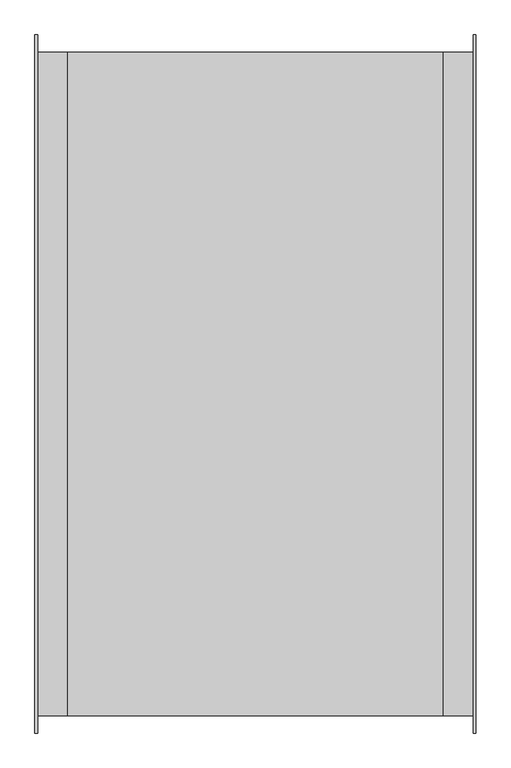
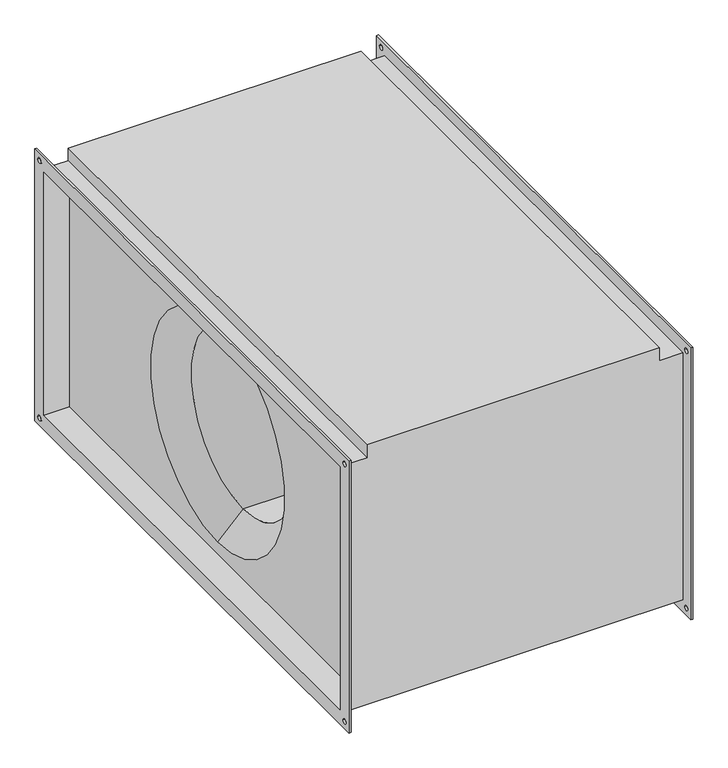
"""IFC4 building model written with IfcOpenShell, lengths in millimetres: proxy geometry, СВ_Вентилятор_КанальныйПрямоугольный_200-1000_SVPS : SVPS-1000x500/45.4D."""

import ifcopenshell
import ifcopenshell.guid

model = None  # the IFC model being written
_history = None  # IfcOwnerHistory: only IFC2X3 demands one
_inside = {}  # id of a spatial element -> (the spatial element, [elements in it])
_under = {}  # id of a project, library or spatial element -> (it, [spatial elements below it])
_declared = {}  # id of a project -> (the project, [libraries it declares])
_typed = {}  # id of a type object -> (the type object, [elements of that type])
_made_of = {}  # id of a material, layer set ... -> (it, [elements and type objects made of it])


def new_model(schema):
    """Start an empty IFC model of exactly this schema.

    Asked for "IFC4X3", IfcOpenShell would pick the latest addendum, in which some entities
    have other attributes; the version numbers below select the first issue.
    IFC2X3 requires an IfcOwnerHistory on every rooted entity: one is made here for all.
    """
    global model, _history
    if schema == "IFC4X3":
        model = ifcopenshell.file(schema_version=(4, 3, 0, 0))
    else:
        model = ifcopenshell.file(schema=schema)
    _inside.clear()
    _under.clear()
    _declared.clear()
    _typed.clear()
    _made_of.clear()
    _history = None
    if model.schema == "IFC2X3":
        org = make("IfcOrganization", Name="unknown")
        user = make(
            "IfcPersonAndOrganization",
            ThePerson=make("IfcPerson", FamilyName="unknown"),
            TheOrganization=org,
        )
        app = make(
            "IfcApplication",
            ApplicationDeveloper=org,
            Version="unknown",
            ApplicationFullName="unknown",
            ApplicationIdentifier="unknown",
        )
        _history = make(
            "IfcOwnerHistory",
            OwningUser=user,
            OwningApplication=app,
            ChangeAction="ADDED",
            CreationDate=0,
        )
    return model


def make(cls, **values):
    """One entity of the class cls with the attributes given. An attribute that is None is left unset."""
    return model.create_entity(
        cls, **{name: value for name, value in values.items() if value is not None}
    )


def rooted(cls, **values):
    """An entity with a GlobalId (a new one), such as an element, a storey or a relation."""
    return make(cls, GlobalId=ifcopenshell.guid.new(), OwnerHistory=_history, **values)


def si_unit(unit_type, name, prefix=None):
    """IfcSIUnit, for example si_unit("LENGTHUNIT", "METRE", prefix="MILLI")."""
    return make("IfcSIUnit", UnitType=unit_type, Prefix=prefix, Name=name)


def assignment(units):
    """IfcUnitAssignment: the units of a project."""
    return None if units is None else make("IfcUnitAssignment", Units=units)


def point(xyz):
    """IfcCartesianPoint."""
    return None if xyz is None else make("IfcCartesianPoint", Coordinates=xyz)


def direction(xyz):
    """IfcDirection."""
    return None if xyz is None else make("IfcDirection", DirectionRatios=xyz)


def frame(location, z_axis=None, x_axis=None):
    """IfcAxis2Placement3D, a coordinate frame: its origin and axes. An axis left out is left unset."""
    return make(
        "IfcAxis2Placement3D",
        Location=point(location),
        Axis=direction(z_axis),
        RefDirection=direction(x_axis),
    )


def origin():
    """The frame at (0, 0, 0) with its axes left unset."""
    return frame((0.0, 0.0, 0.0))


def place(relative_to, where):
    """IfcLocalPlacement: puts the frame where relative to a parent placement (None: the world)."""
    return make(
        "IfcLocalPlacement", PlacementRelTo=relative_to, RelativePlacement=where
    )


def context(
    kind, dimensions, precision=None, world=None, true_north=None, identifier=None
):
    """IfcGeometricRepresentationContext, for example the 3D "Model" context."""
    return make(
        "IfcGeometricRepresentationContext",
        ContextIdentifier=identifier,
        ContextType=kind,
        CoordinateSpaceDimension=dimensions,
        Precision=precision,
        WorldCoordinateSystem=world,
        TrueNorth=true_north,
    )


def project(units=None, contexts=None):
    """IfcProject with its units and contexts."""
    return rooted(
        "IfcProject",
        Name="project",
        RepresentationContexts=contexts,
        UnitsInContext=assignment(units),
    )


def spatial(cls, under=None, at=None, **own):
    """A site, building, storey or space (cls), placed at a placement, below another one or the project."""
    s = rooted(cls, ObjectPlacement=at, **own)
    if under is not None:
        _under.setdefault(under.id(), (under, []))[1].append(s)
    return s


def polyline(points):
    """IfcPolyline through the points."""
    return make("IfcPolyline", Points=[point(p) for p in points])


def circle_curve(where, radius):
    """IfcCircle in the frame where."""
    return make("IfcCircle", Position=where, Radius=radius)


def shape(context_of_items, identifier, shape_type, items):
    """IfcShapeRepresentation: the items that make up one representation, for example the "Body"."""
    return make(
        "IfcShapeRepresentation",
        ContextOfItems=context_of_items,
        RepresentationIdentifier=identifier,
        RepresentationType=shape_type,
        Items=items,
    )


def source(mapping_origin, context_of_items, identifier, shape_type, items):
    """IfcRepresentationMap: a shape defined once, which mapped items show again and again."""
    return make(
        "IfcRepresentationMap",
        MappingOrigin=mapping_origin,
        MappedRepresentation=shape(context_of_items, identifier, shape_type, items),
    )


def transform(
    local_origin,
    x_axis=None,
    y_axis=None,
    z_axis=None,
    scale=None,
    scale2=None,
    scale3=None,
    uniform=True,
):
    """IfcCartesianTransformationOperator3D, or its non-uniform kind. x_axis, y_axis, z_axis: its Axis1, 2, 3."""
    if uniform:
        return make(
            "IfcCartesianTransformationOperator3D",
            Axis1=direction(x_axis),
            Axis2=direction(y_axis),
            LocalOrigin=point(local_origin),
            Scale=scale,
            Axis3=direction(z_axis),
        )
    return make(
        "IfcCartesianTransformationOperator3DnonUniform",
        Axis1=direction(x_axis),
        Axis2=direction(y_axis),
        LocalOrigin=point(local_origin),
        Scale=scale,
        Axis3=direction(z_axis),
        Scale2=scale2,
        Scale3=scale3,
    )


def mapped(mapping_source, mapping_target):
    """IfcMappedItem: shows the shape of a source again, moved by a transform."""
    return make(
        "IfcMappedItem", MappingSource=mapping_source, MappingTarget=mapping_target
    )


def made_of(thing, what):
    """Note that an element or type object is made of a material, layer set ...; save() writes the relation."""
    if what is not None:
        _made_of.setdefault(what.id(), (what, []))[1].append(thing)
    return thing


def element(
    cls,
    number,
    at=None,
    inside=None,
    cuts=None,
    type_object=None,
    material=None,
    context=None,
    identifier="Body",
    shape_type=None,
    held_by="IfcProductDefinitionShape",
    body=None,
    shapes=None,
    **own,
):
    """One element of the class cls, such as IfcWall. Its Tag is "e" and its number.

    at: its placement. inside: the storey or other place that contains it. cuts: it is an
    opening in that element (IfcRelVoidsElement). A single representation is given by context,
    identifier, shape_type and body (its items); several are given by shapes. held_by: the class
    of the entity that holds the representations. save() writes the other relations.
    """
    e = rooted(cls, Tag="e%d" % number, ObjectPlacement=at, **own)
    if body is not None:
        shapes = [shape(context, identifier, shape_type, body)]
    if shapes is not None:
        e.Representation = make(held_by, Representations=shapes)
    if inside is not None:
        _inside.setdefault(inside.id(), (inside, []))[1].append(e)
    if cuts is not None:
        rooted(
            "IfcRelVoidsElement", RelatingBuildingElement=cuts, RelatedOpeningElement=e
        )
    if type_object is not None:
        _typed.setdefault(type_object.id(), (type_object, []))[1].append(e)
    return made_of(e, material)


def aggregate(whole, parts):
    """IfcRelAggregates: a whole, such as a stair, and the parts it consists of."""
    return rooted("IfcRelAggregates", RelatingObject=whole, RelatedObjects=parts)


def save(model, path):
    """Write the relations noted so far, then the file.

    IfcRelAggregates (storeys below a building ...), IfcRelContainedInSpatialStructure (elements
    in a storey), IfcRelDefinesByType, IfcRelAssociatesMaterial and IfcRelDeclares: one each for
    every whole, place, type object, material and project.
    """
    for whole, parts in _under.values():
        aggregate(whole, parts)
    for where, things in _inside.values():
        rooted(
            "IfcRelContainedInSpatialStructure",
            RelatedElements=things,
            RelatingStructure=where,
        )
    for kind, things in _typed.values():
        rooted("IfcRelDefinesByType", RelatedObjects=things, RelatingType=kind)
    for what, things in _made_of.values():
        rooted("IfcRelAssociatesMaterial", RelatedObjects=things, RelatingMaterial=what)
    for by, libraries in _declared.values():
        rooted("IfcRelDeclares", RelatingContext=by, RelatedDefinitions=libraries)
    model.write(path)


def plane_surface(at):
    """IfcPlane: the flat surface through the origin of the frame at, square to its z axis."""
    return make("IfcPlane", Position=at)


def revolved_surface(curve, axis_point, axis_direction):
    """IfcSurfaceOfRevolution: the curve turned about the line through axis_point along axis_direction."""
    return make(
        "IfcSurfaceOfRevolution",
        SweptCurve=make("IfcArbitraryOpenProfileDef", ProfileType="CURVE", Curve=curve),
        AxisPosition=make("IfcAxis1Placement", Location=point(axis_point), Axis=direction(axis_direction)),
    )


def advanced_brep(points, edges, surfaces, faces):
    """IfcAdvancedBrep: a solid bounded by faces that lie on surfaces and meet in shared edges.

    An edge is (start, end): straight between two places in points (the first is 0);
    or (start, end, curve); or (start, end, curve, False) where it runs against its curve.
    A face is (place in surfaces, loops), or (place, loops, False) where it looks against
    its surface's normal. A loop lists edges by number (the first is 1), with a minus sign
    where the edge is run from its end to its start. The first loop is the outer one.
    """
    corners = [point(p) for p in points]
    vertices = [make("IfcVertexPoint", VertexGeometry=c) for c in corners]
    made = []
    for start, end, *more in edges:
        made.append(
            make(
                "IfcEdgeCurve",
                EdgeStart=vertices[start],
                EdgeEnd=vertices[end],
                EdgeGeometry=more[0] if more else make("IfcPolyline", Points=[corners[start], corners[end]]),
                SameSense=more[1] if len(more) > 1 else True,
            )
        )
    hull = []
    for where, loops, *sense in faces:
        bounds = []
        for j, loop in enumerate(loops):
            ring = [make("IfcOrientedEdge", EdgeElement=made[abs(k) - 1], Orientation=k > 0) for k in loop]
            bounds.append(
                make(
                    "IfcFaceOuterBound" if j == 0 else "IfcFaceBound",
                    Bound=make("IfcEdgeLoop", EdgeList=ring),
                    Orientation=True,
                )
            )
        hull.append(make("IfcAdvancedFace", Bounds=bounds, FaceSurface=surfaces[where], SameSense=sense[0] if sense else True))
    return make("IfcAdvancedBrep", Outer=make("IfcClosedShell", CfsFaces=hull))


def mechanical_equipment_67b06a08(model_context):
    return source(origin(), model_context, "Body", "AdvancedBrep", [
        advanced_brep(
        [(-331.0, -504.0, 254.0), (-285.0, -504.0, 254.0), (-285.0, 504.0, 254.0), (-331.0, 504.0, 254.0), (285.0, 504.0, 280.0), (285.0, -504.0, 280.0), (285.0, -504.0, 254.0), (285.0, 504.0, 254.0), (285.0, 500.0, -250.0), (285.0, 500.0, 250.0), (285.0, -500.0, 250.0), (285.0, -500.0, -250.0), (285.0, 0.0, 225.0), (285.0, 0.0, -225.0), (-285.0, 500.0, 250.0), (-285.0, 500.0, -250.0), (-285.0, -500.0, -250.0), (-285.0, -500.0, 250.0), (-285.0, 0.0, -225.0), (-285.0, 0.0, 225.0), (-285.0, -504.0, 280.0), (-285.0, 504.0, 280.0), (-331.0, -504.0, -254.0), (331.0, -504.0, -254.0), (331.0, -504.0, 254.0), (-331.0, 504.0, -254.0), (331.0, 504.0, -254.0), (331.0, 504.0, 254.0), (235.0, 0.0, -175.0), (235.0, 0.0, 175.0), (-235.0, 0.0, 175.0), (-235.0, 0.0, -175.0), (-335.0, -530.0, 280.0), (-335.0, 530.0, 280.0), (-335.0, 530.0, -280.0), (-335.0, -530.0, -280.0), (-335.0, -500.0, 250.0), (-335.0, -500.0, -250.0), (-335.0, 500.0, -250.0), (-335.0, 500.0, 250.0), (-335.0, 510.0, 265.0), (-335.0, 520.0, 265.0), (-335.0, -520.0, 265.0), (-335.0, -510.0, 265.0), (-335.0, -520.0, -265.0), (-335.0, -510.0, -265.0), (-335.0, 510.0, -265.0), (-335.0, 520.0, -265.0), (-331.0, -530.0, 280.0), (-331.0, -530.0, -280.0), (-331.0, 530.0, -280.0), (-331.0, 530.0, 280.0), (-331.0, 520.0, 265.0), (-331.0, 510.0, 265.0), (-331.0, -510.0, 265.0), (-331.0, -520.0, 265.0), (-331.0, -510.0, -265.0), (-331.0, -520.0, -265.0), (-331.0, 520.0, -265.0), (-331.0, 510.0, -265.0), (331.0, 530.0, 280.0), (331.0, 530.0, -280.0), (331.0, -530.0, -280.0), (331.0, -530.0, 280.0), (331.0, 510.0, 265.0), (331.0, 520.0, 265.0), (331.0, -520.0, 265.0), (331.0, -510.0, 265.0), (331.0, -520.0, -265.0), (331.0, -510.0, -265.0), (331.0, 510.0, -265.0), (331.0, 520.0, -265.0), (335.0, 530.0, 280.0), (335.0, -530.0, 280.0), (335.0, -530.0, -280.0), (335.0, 530.0, -280.0), (335.0, 500.0, 250.0), (335.0, 500.0, -250.0), (335.0, -500.0, -250.0), (335.0, -500.0, 250.0), (335.0, 520.0, 265.0), (335.0, 510.0, 265.0), (335.0, -510.0, 265.0), (335.0, -520.0, 265.0), (335.0, -510.0, -265.0), (335.0, -520.0, -265.0), (335.0, 520.0, -265.0), (335.0, 510.0, -265.0)],
        [
            (0, 1),
            (1, 2),
            (2, 3),
            (3, 0),
            (4, 5),
            (5, 6),
            (6, 7),
            (7, 4),
            (8, 9),
            (9, 10),
            (10, 11),
            (11, 8),
            (12, 13, circle_curve(frame((285.0, 0.0, 0.0), z_axis=(-1.0, 0.0, 0.0), x_axis=(0.0, 0.0, 1.0)), 225.0)),
            (13, 12, circle_curve(frame((285.0, 0.0, 0.0), z_axis=(-1.0, 0.0, 0.0), x_axis=(0.0, 0.0, 1.0)), 225.0)),
            (14, 15),
            (15, 16),
            (16, 17),
            (17, 14),
            (18, 19, circle_curve(frame((-285.0, 0.0, 0.0), z_axis=(1.0, 0.0, 0.0), x_axis=(0.0, 0.0, 1.0)), 225.0)),
            (19, 18, circle_curve(frame((-285.0, 0.0, 0.0), z_axis=(1.0, 0.0, 0.0), x_axis=(0.0, 0.0, 1.0)), 225.0)),
            (20, 21),
            (21, 2),
            (1, 20),
            (5, 20),
            (0, 22),
            (22, 23),
            (23, 24),
            (24, 6),
            (22, 25),
            (25, 26),
            (26, 23),
            (21, 4),
            (7, 27),
            (27, 26),
            (25, 3),
            (24, 27),
            (28, 13),
            (12, 29),
            (29, 28, circle_curve(frame((235.0, 0.0, 0.0), z_axis=(-1.0, 0.0, 0.0), x_axis=(0.0, 0.0, 1.0)), 175.0)),
            (28, 29, circle_curve(frame((235.0, 0.0, 0.0), z_axis=(-1.0, 0.0, 0.0), x_axis=(0.0, 0.0, 1.0)), 175.0)),
            (29, 30),
            (30, 31, circle_curve(frame((-235.0, 0.0, 0.0), z_axis=(-1.0, 0.0, 0.0), x_axis=(0.0, 0.0, 1.0)), 175.0)),
            (31, 28),
            (31, 30, circle_curve(frame((-235.0, 0.0, 0.0), z_axis=(-1.0, 0.0, 0.0), x_axis=(0.0, 0.0, 1.0)), 175.0)),
            (30, 19),
            (18, 31),
            (32, 33),
            (33, 34),
            (34, 35),
            (35, 32),
            (36, 37),
            (37, 38),
            (38, 39),
            (39, 36),
            (40, 41, circle_curve(frame((-335.0, 515.0, 265.0), z_axis=(1.0, 0.0, 0.0), x_axis=(0.0, 1.0, 0.0)), 5.0)),
            (41, 40, circle_curve(frame((-335.0, 515.0, 265.0), z_axis=(1.0, 0.0, 0.0), x_axis=(0.0, 1.0, 0.0)), 5.0)),
            (42, 43, circle_curve(frame((-335.0, -515.0, 265.0), z_axis=(1.0, 0.0, 0.0), x_axis=(0.0, 1.0, 0.0)), 5.0)),
            (43, 42, circle_curve(frame((-335.0, -515.0, 265.0), z_axis=(1.0, 0.0, 0.0), x_axis=(0.0, 1.0, 0.0)), 5.0)),
            (44, 45, circle_curve(frame((-335.0, -515.0, -265.0), z_axis=(1.0, 0.0, 0.0), x_axis=(0.0, 1.0, 0.0)), 5.0)),
            (45, 44, circle_curve(frame((-335.0, -515.0, -265.0), z_axis=(1.0, 0.0, 0.0), x_axis=(0.0, 1.0, 0.0)), 5.0)),
            (46, 47, circle_curve(frame((-335.0, 515.0, -265.0), z_axis=(1.0, 0.0, 0.0), x_axis=(0.0, 1.0, 0.0)), 5.0)),
            (47, 46, circle_curve(frame((-335.0, 515.0, -265.0), z_axis=(1.0, 0.0, 0.0), x_axis=(0.0, 1.0, 0.0)), 5.0)),
            (48, 49),
            (49, 50),
            (50, 51),
            (51, 48),
            (52, 53, circle_curve(frame((-331.0, 515.0, 265.0), z_axis=(-1.0, 0.0, 0.0), x_axis=(0.0, 1.0, 0.0)), 5.0)),
            (53, 52, circle_curve(frame((-331.0, 515.0, 265.0), z_axis=(-1.0, 0.0, 0.0), x_axis=(0.0, 1.0, 0.0)), 5.0)),
            (54, 55, circle_curve(frame((-331.0, -515.0, 265.0), z_axis=(-1.0, 0.0, 0.0), x_axis=(0.0, 1.0, 0.0)), 5.0)),
            (55, 54, circle_curve(frame((-331.0, -515.0, 265.0), z_axis=(-1.0, 0.0, 0.0), x_axis=(0.0, 1.0, 0.0)), 5.0)),
            (56, 57, circle_curve(frame((-331.0, -515.0, -265.0), z_axis=(-1.0, 0.0, 0.0), x_axis=(0.0, 1.0, 0.0)), 5.0)),
            (57, 56, circle_curve(frame((-331.0, -515.0, -265.0), z_axis=(-1.0, 0.0, 0.0), x_axis=(0.0, 1.0, 0.0)), 5.0)),
            (58, 59, circle_curve(frame((-331.0, 515.0, -265.0), z_axis=(-1.0, 0.0, 0.0), x_axis=(0.0, 1.0, 0.0)), 5.0)),
            (59, 58, circle_curve(frame((-331.0, 515.0, -265.0), z_axis=(-1.0, 0.0, 0.0), x_axis=(0.0, 1.0, 0.0)), 5.0)),
            (35, 49),
            (48, 32),
            (34, 50),
            (33, 51),
            (60, 61),
            (61, 62),
            (62, 63),
            (63, 60),
            (64, 65, circle_curve(frame((331.0, 515.0, 265.0), z_axis=(1.0, 0.0, 0.0), x_axis=(0.0, 1.0, 0.0)), 5.0)),
            (65, 64, circle_curve(frame((331.0, 515.0, 265.0), z_axis=(1.0, 0.0, 0.0), x_axis=(0.0, 1.0, 0.0)), 5.0)),
            (66, 67, circle_curve(frame((331.0, -515.0, 265.0), z_axis=(1.0, 0.0, 0.0), x_axis=(0.0, 1.0, 0.0)), 5.0)),
            (67, 66, circle_curve(frame((331.0, -515.0, 265.0), z_axis=(1.0, 0.0, 0.0), x_axis=(0.0, 1.0, 0.0)), 5.0)),
            (68, 69, circle_curve(frame((331.0, -515.0, -265.0), z_axis=(1.0, 0.0, 0.0), x_axis=(0.0, 1.0, 0.0)), 5.0)),
            (69, 68, circle_curve(frame((331.0, -515.0, -265.0), z_axis=(1.0, 0.0, 0.0), x_axis=(0.0, 1.0, 0.0)), 5.0)),
            (70, 71, circle_curve(frame((331.0, 515.0, -265.0), z_axis=(1.0, 0.0, 0.0), x_axis=(0.0, 1.0, 0.0)), 5.0)),
            (71, 70, circle_curve(frame((331.0, 515.0, -265.0), z_axis=(1.0, 0.0, 0.0), x_axis=(0.0, 1.0, 0.0)), 5.0)),
            (72, 73),
            (73, 74),
            (74, 75),
            (75, 72),
            (76, 77),
            (77, 78),
            (78, 79),
            (79, 76),
            (80, 81, circle_curve(frame((335.0, 515.0, 265.0), z_axis=(-1.0, 0.0, 0.0), x_axis=(0.0, 1.0, 0.0)), 5.0)),
            (81, 80, circle_curve(frame((335.0, 515.0, 265.0), z_axis=(-1.0, 0.0, 0.0), x_axis=(0.0, 1.0, 0.0)), 5.0)),
            (82, 83, circle_curve(frame((335.0, -515.0, 265.0), z_axis=(-1.0, 0.0, 0.0), x_axis=(0.0, 1.0, 0.0)), 5.0)),
            (83, 82, circle_curve(frame((335.0, -515.0, 265.0), z_axis=(-1.0, 0.0, 0.0), x_axis=(0.0, 1.0, 0.0)), 5.0)),
            (84, 85, circle_curve(frame((335.0, -515.0, -265.0), z_axis=(-1.0, 0.0, 0.0), x_axis=(0.0, 1.0, 0.0)), 5.0)),
            (85, 84, circle_curve(frame((335.0, -515.0, -265.0), z_axis=(-1.0, 0.0, 0.0), x_axis=(0.0, 1.0, 0.0)), 5.0)),
            (86, 87, circle_curve(frame((335.0, 515.0, -265.0), z_axis=(-1.0, 0.0, 0.0), x_axis=(0.0, 1.0, 0.0)), 5.0)),
            (87, 86, circle_curve(frame((335.0, 515.0, -265.0), z_axis=(-1.0, 0.0, 0.0), x_axis=(0.0, 1.0, 0.0)), 5.0)),
            (63, 73),
            (72, 60),
            (62, 74),
            (61, 75),
            (39, 14),
            (17, 36),
            (38, 15),
            (37, 16),
            (76, 9),
            (8, 77),
            (11, 78),
            (10, 79),
            (40, 53),
            (52, 41),
            (64, 81),
            (80, 65),
            (42, 55),
            (54, 43),
            (66, 83),
            (82, 67),
            (44, 57),
            (56, 45),
            (68, 85),
            (84, 69),
            (46, 59),
            (58, 47),
            (70, 87),
            (86, 71),
        ],
        [
            plane_surface(frame((-285.0, 504.0, 254.0), z_axis=(0.0, 0.0, 1.0), x_axis=(-1.0, 0.0, 0.0))),
            plane_surface(frame((285.0, -504.0, 280.0), z_axis=(1.0, 0.0, 0.0), x_axis=(0.0, 0.0, -1.0))),
            plane_surface(frame((-285.0, -504.0, 280.0), z_axis=(-1.0, 0.0, 0.0), x_axis=(0.0, 0.0, 1.0))),
            plane_surface(frame((285.0, -504.0, 280.0), z_axis=(0.0, -1.0, 0.0), x_axis=(-1.0, 0.0, 0.0))),
            plane_surface(frame((285.0, -504.0, -254.0), z_axis=(0.0, 0.0, -1.0), x_axis=(-1.0, 0.0, 0.0))),
            plane_surface(frame((285.0, 504.0, -254.0), z_axis=(0.0, 1.0, 0.0), x_axis=(-1.0, 0.0, 0.0))),
            plane_surface(frame((285.0, 504.0, 280.0), z_axis=(0.0, 0.0, 1.0), x_axis=(-1.0, 0.0, 0.0))),
            plane_surface(frame((331.0, 504.0, 254.0), z_axis=(0.0, 0.0, 1.0), x_axis=(-1.0, 0.0, 0.0))),
            revolved_surface(polyline([(235.0, 0.0, 175.0), (285.0, 0.0, 225.0)]), (-722.0617897, 0.0, 0.0), (-1.0, 0.0, 0.0)),
            revolved_surface(polyline([(-235.0, 0.0, 175.0), (235.0, 0.0, 175.0)]), (-722.0617897, 0.0, 0.0), (-1.0, 0.0, 0.0)),
            revolved_surface(polyline([(-285.0, 0.0, 225.0), (-235.0, 0.0, 175.0)]), (-722.0617897, 0.0, 0.0), (-1.0, 0.0, 0.0)),
            plane_surface(frame((-335.0, -530.0, 280.0), z_axis=(-1.0, 0.0, 0.0), x_axis=(0.0, 0.0, 1.0))),
            plane_surface(frame((-331.0, -530.0, 280.0), z_axis=(1.0, 0.0, 0.0), x_axis=(0.0, 0.0, -1.0))),
            plane_surface(frame((-331.0, -530.0, 280.0), z_axis=(0.0, -1.0, 0.0), x_axis=(-1.0, 0.0, 0.0))),
            plane_surface(frame((-331.0, -530.0, -280.0), z_axis=(0.0, 0.0, -1.0), x_axis=(-1.0, 0.0, 0.0))),
            plane_surface(frame((-331.0, 530.0, -280.0), z_axis=(0.0, 1.0, 0.0), x_axis=(-1.0, 0.0, 0.0))),
            plane_surface(frame((-331.0, 530.0, 280.0), z_axis=(0.0, 0.0, 1.0), x_axis=(-1.0, 0.0, 0.0))),
            plane_surface(frame((331.0, 500.0, -250.0), z_axis=(-1.0, 0.0, 0.0), x_axis=(0.0, 0.0, 1.0))),
            plane_surface(frame((335.0, 500.0, -250.0), z_axis=(1.0, 0.0, 0.0), x_axis=(0.0, 0.0, -1.0))),
            plane_surface(frame((335.0, 530.0, 280.0), z_axis=(0.0, 0.0, 1.0), x_axis=(-1.0, 0.0, 0.0))),
            plane_surface(frame((335.0, -530.0, 280.0), z_axis=(0.0, -1.0, 0.0), x_axis=(-1.0, 0.0, 0.0))),
            plane_surface(frame((335.0, -530.0, -280.0), z_axis=(0.0, 0.0, -1.0), x_axis=(-1.0, 0.0, 0.0))),
            plane_surface(frame((335.0, 530.0, -280.0), z_axis=(0.0, 1.0, 0.0), x_axis=(-1.0, 0.0, 0.0))),
            plane_surface(frame((-331.0, -500.0, 250.0), z_axis=(0.0, 0.0, -1.0), x_axis=(-1.0, 0.0, 0.0))),
            plane_surface(frame((-331.0, 500.0, 250.0), z_axis=(0.0, -1.0, 0.0), x_axis=(-1.0, 0.0, 0.0))),
            plane_surface(frame((-331.0, 500.0, -250.0), z_axis=(0.0, 0.0, 1.0), x_axis=(-1.0, 0.0, 0.0))),
            plane_surface(frame((-331.0, -500.0, -250.0), z_axis=(0.0, 1.0, 0.0), x_axis=(-1.0, 0.0, 0.0))),
            plane_surface(frame((335.0, 500.0, 250.0), z_axis=(0.0, -1.0, 0.0), x_axis=(-1.0, 0.0, 0.0))),
            plane_surface(frame((335.0, 500.0, -250.0), z_axis=(0.0, 0.0, 1.0), x_axis=(-1.0, 0.0, 0.0))),
            plane_surface(frame((335.0, -500.0, -250.0), z_axis=(0.0, 1.0, 0.0), x_axis=(-1.0, 0.0, 0.0))),
            plane_surface(frame((335.0, -500.0, 250.0), z_axis=(0.0, 0.0, -1.0), x_axis=(-1.0, 0.0, 0.0))),
            revolved_surface(polyline([(-331.0, 520.0, 265.0), (-335.0, 520.0, 265.0)]), (-335.0, 515.0, 265.0), (1.0, 0.0, 0.0)),
            revolved_surface(polyline([(335.0, 520.0, 265.0), (331.0, 520.0, 265.0)]), (-335.0, 515.0, 265.0), (1.0, 0.0, 0.0)),
            revolved_surface(polyline([(-331.0, -510.0, 265.0), (-335.0, -510.0, 265.0)]), (0.0, -515.0, 265.0), (1.0, 0.0, 0.0)),
            revolved_surface(polyline([(335.0, -510.0, 265.0), (331.0, -510.0, 265.0)]), (0.0, -515.0, 265.0), (1.0, 0.0, 0.0)),
            revolved_surface(polyline([(-331.0, -510.0, -265.0), (-335.0, -510.0, -265.0)]), (0.0, -515.0, -265.0), (1.0, 0.0, 0.0)),
            revolved_surface(polyline([(335.0, -510.0, -265.0), (331.0, -510.0, -265.0)]), (0.0, -515.0, -265.0), (1.0, 0.0, 0.0)),
            revolved_surface(polyline([(-331.0, 520.0, -265.0), (-335.0, 520.0, -265.0)]), (0.0, 515.0, -265.0), (1.0, 0.0, 0.0)),
            revolved_surface(polyline([(335.0, 520.0, -265.0), (331.0, 520.0, -265.0)]), (0.0, 515.0, -265.0), (1.0, 0.0, 0.0)),
        ],
        [
            (0, [[1, 2, 3, 4]]),
            (1, [[5, 6, 7, 8]]),
            (1, [[9, 10, 11, 12], [13, 14]]),
            (2, [[15, 16, 17, 18], [19, 20]]),
            (2, [[21, 22, -2, 23]]),
            (3, [[24, -23, -1, 25, 26, 27, 28, -6]]),
            (4, [[-26, 29, 30, 31]]),
            (5, [[32, -8, 33, 34, -30, 35, -3, -22]]),
            (6, [[-5, -32, -21, -24]]),
            (7, [[-28, 36, -33, -7]]),
            (8, [[37, -13, 38, 39]]),
            (8, [[-37, 40, -38, -14]]),
            (9, [[-39, 41, 42, 43]]),
            (9, [[-40, -43, 44, -41]]),
            (10, [[-42, 45, -19, 46]]),
            (10, [[-44, -46, -20, -45]]),
            (11, [[47, 48, 49, 50], [51, 52, 53, 54], [55, 56], [57, 58], [59, 60], [61, 62]]),
            (12, [[63, 64, 65, 66], [-25, -4, -35, -29], [67, 68], [69, 70], [71, 72], [73, 74]]),
            (13, [[-50, 75, -63, 76]]),
            (14, [[-49, 77, -64, -75]]),
            (15, [[-48, 78, -65, -77]]),
            (16, [[-47, -76, -66, -78]]),
            (17, [[79, 80, 81, 82], [-27, -31, -34, -36], [83, 84], [85, 86], [87, 88], [89, 90]]),
            (18, [[91, 92, 93, 94], [95, 96, 97, 98], [99, 100], [101, 102], [103, 104], [105, 106]]),
            (19, [[-82, 107, -91, 108]]),
            (20, [[-81, 109, -92, -107]]),
            (21, [[-80, 110, -93, -109]]),
            (22, [[-79, -108, -94, -110]]),
            (23, [[-54, 111, -18, 112]]),
            (24, [[-53, 113, -15, -111]]),
            (25, [[-52, 114, -16, -113]]),
            (26, [[-51, -112, -17, -114]]),
            (27, [[-95, 115, -9, 116]]),
            (28, [[-96, -116, -12, 117]]),
            (29, [[-97, -117, -11, 118]]),
            (30, [[-115, -98, -118, -10]]),
            (31, [[119, -67, 120, -55]]),
            (32, [[121, -99, 122, -83]]),
            (31, [[-119, -56, -120, -68]]),
            (32, [[-121, -84, -122, -100]]),
            (33, [[123, -69, 124, -57]]),
            (34, [[125, -101, 126, -85]]),
            (33, [[-123, -58, -124, -70]]),
            (34, [[-125, -86, -126, -102]]),
            (35, [[127, -71, 128, -59]]),
            (36, [[129, -103, 130, -87]]),
            (35, [[-127, -60, -128, -72]]),
            (36, [[-129, -88, -130, -104]]),
            (37, [[131, -73, 132, -61]]),
            (38, [[133, -105, 134, -89]]),
            (37, [[-131, -62, -132, -74]]),
            (38, [[-133, -90, -134, -106]]),
        ],
    ),
    ])


if __name__ == "__main__":
    model = new_model("IFC4")
    model_context = context("Model", 3, world=origin())
    ifc_project = project(units=[si_unit("LENGTHUNIT", "METRE", prefix="MILLI")], contexts=[model_context])
    site = spatial("IfcSite", under=ifc_project)
    building = spatial("IfcBuilding", under=site)
    placement = place(None, origin())
    mechanical_equipment_shape = mechanical_equipment_67b06a08(model_context)
    element("IfcBuildingElementProxy", 1, Name="СВ_Вентилятор_КанальныйПрямоугольный_200-1000_SVPS : SVPS-1000x500/45.4D", ObjectType="СВ_Вентилятор_КанальныйПрямоугольный_200-1000_SVPS : SVPS-1000x500/45.4D", at=placement, inside=building, context=model_context, shape_type="MappedRepresentation", body=[
        mapped(mechanical_equipment_shape, transform((0.0, 0.0, 0.0), x_axis=(1.0, 0.0, 0.0), y_axis=(0.0, 1.0, 0.0), z_axis=(0.0, 0.0, 1.0))),
    ])
    save(model, "model.ifc")
